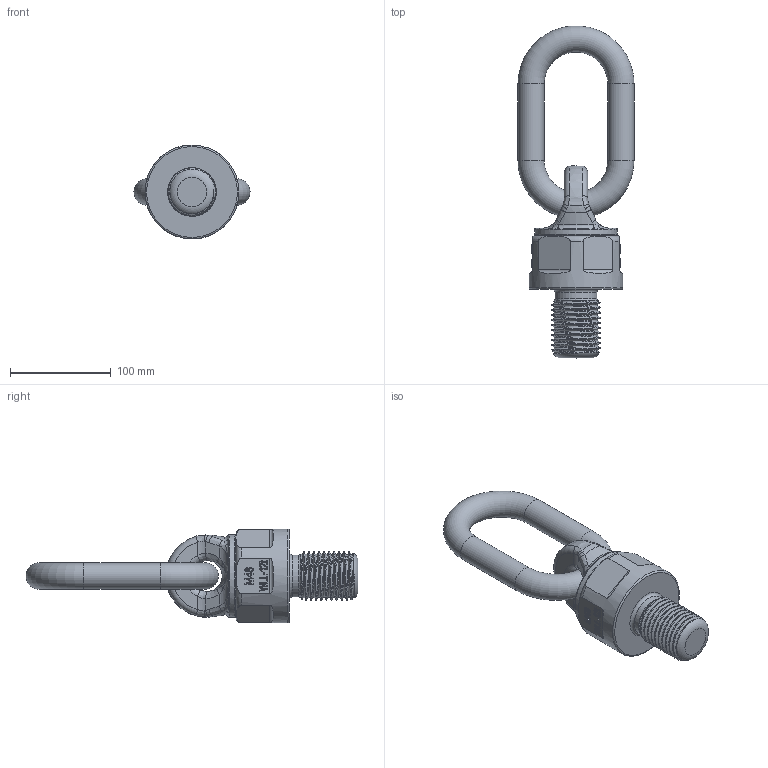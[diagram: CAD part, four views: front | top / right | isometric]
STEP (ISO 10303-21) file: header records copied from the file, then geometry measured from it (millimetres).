
FILE_DESCRIPTION(/* description */ (''),/* implementation_level */ '2;1');
FILE_NAME(/* name */ 'YTJ-M48.stp',/* time_stamp */ '2025-04-02T11:22:52+08:00',/* author */ (''),/* organization */ (''),/* preprocessor_version */ 'ST-DEVELOPER v16',/* originating_system */ 'SIEMENS PLM Software NX 10.0',/* authorisation */ '');
FILE_SCHEMA (('AP203_CONFIGURATION_CONTROLLED_3D_DESIGN_OF_MECHANICAL_PARTS_AND_ASSEMBLIES_MIM_LF { 1 0 10303 403 2 1 2}'));
Length unit declared in the file: millimetre
Products named in the file (1): Admi177C9AD32i9m
Bounding box: 115 x 329.01 x 93 mm (x, y, z)
Volume: 810316 mm3; surface area: 109562.6 mm2
Topology: 3 solids, 3 shells, 302 faces, 769 edges, 489 vertices
Faces by surface type: plane 132, bspline 68, extrusion 44, torus 28, cylinder 23, cone 6, sphere 1
Full cylindrical faces by diameter (mm): 26 x2, 41.5 x1, 50 x2, 82 x1, 93 x1
Entity records: 13223 total; most frequent: CARTESIAN_POINT 6763, ORIENTED_EDGE 1462, DIRECTION 1029, EDGE_CURVE 731, VERTEX_POINT 475, AXIS2_PLACEMENT_3D 359, EDGE_LOOP 342, B_SPLINE_CURVE_WITH_KNOTS 338
